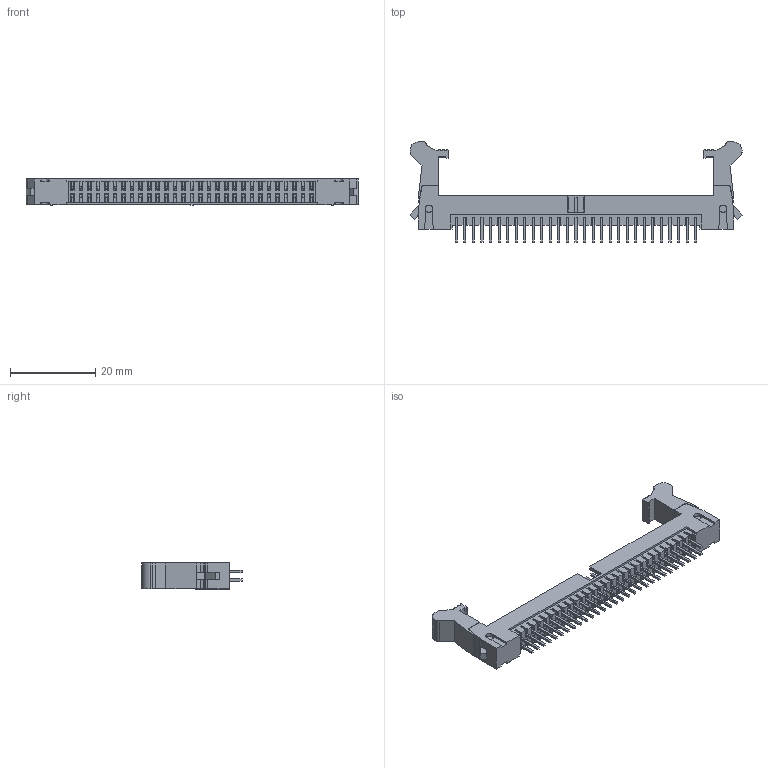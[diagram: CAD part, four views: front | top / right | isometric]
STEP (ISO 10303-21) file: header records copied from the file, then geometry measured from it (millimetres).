
FILE_DESCRIPTION (( 'STEP AP203' ), '1' );
FILE_NAME ('HC-NJ200-2-29-Z-20.5-XX-X-L (2.00 籟褒 眻渀 酗嫉諶-HCTL).STEP', '2026-04-18T07:47:59', ( '' ), ( '' ), 'SwSTEP 2.0', 'SolidWorks 2025', '' );
FILE_SCHEMA (( 'CONFIG_CONTROL_DESIGN' ));
Length unit declared in the file: millimetre
Products named in the file (1): HC-NJ200-2-29-Z-20.5-XX-X-L (2.00 牛角 直针 长耳扣-HCTL)
Bounding box: 77.68 x 23.42 x 6.1 mm (x, y, z)
Volume: 2679.1 mm3; surface area: 4968 mm2
Topology: 1 solids, 1 shells, 1218 faces, 3288 edges, 2192 vertices
Faces by surface type: plane 1158, cylinder 60
Entity records: 37597 total; most frequent: CARTESIAN_POINT 6699, ORIENTED_EDGE 6576, DIRECTION 5854, EDGE_CURVE 3288, VECTOR 3160, LINE 3160, VERTEX_POINT 2192, AXIS2_PLACEMENT_3D 1347
